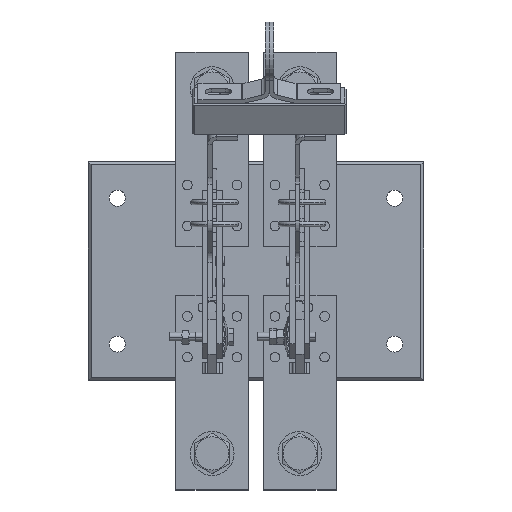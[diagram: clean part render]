
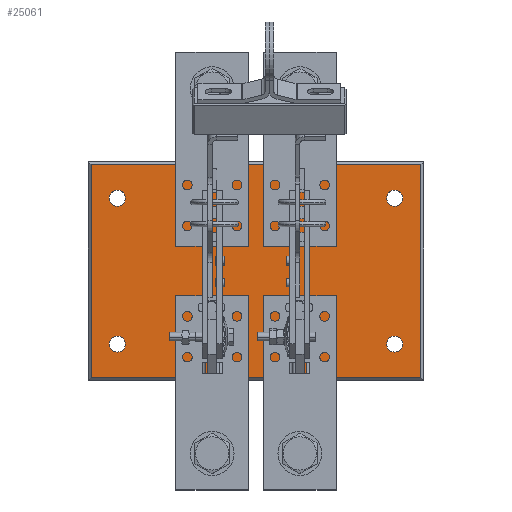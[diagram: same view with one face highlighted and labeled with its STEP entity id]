
A CAD part, top view. The second image highlights one B-rep face of the part: STEP entity #25061.
In plain terms, the highlighted planar face has unit normal (0, 0, 1).
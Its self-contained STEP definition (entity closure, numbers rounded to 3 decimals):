
#627 = DIRECTION ( 'NONE',  ( -1., 0., 0. ) ) ;
#874 = AXIS2_PLACEMENT_3D ( 'NONE', #3002, #16676, #20924 ) ;
#1264 = LINE ( 'NONE', #12679, #5043 ) ;
#1349 = EDGE_LOOP ( 'NONE', ( #22873, #18011 ) ) ;
#1757 = DIRECTION ( 'NONE',  ( -1., 0., 0. ) ) ;
#1785 = AXIS2_PLACEMENT_3D ( 'NONE', #17540, #17445, #9665 ) ;
#1841 = DIRECTION ( 'NONE',  ( 0., 1., 0. ) ) ;
#1969 = CARTESIAN_POINT ( 'NONE',  ( 115., -73., 7.5 ) ) ;
#2152 = CIRCLE ( 'NONE', #5512, 5.5 ) ;
#2404 = VERTEX_POINT ( 'NONE', #8203 ) ;
#3002 = CARTESIAN_POINT ( 'NONE',  ( -95., 50., 7.5 ) ) ;
#3201 = EDGE_CURVE ( 'NONE', #22048, #10824, #6075, .T. ) ;
#3203 = CARTESIAN_POINT ( 'NONE',  ( -113., 73., 7.5 ) ) ;
#3279 = CARTESIAN_POINT ( 'NONE',  ( -95., -50., 7.5 ) ) ;
#3706 = DIRECTION ( 'NONE',  ( 0., 0., -1. ) ) ;
#3781 = CARTESIAN_POINT ( 'NONE',  ( 95., -50., 7.5 ) ) ;
#5043 = VECTOR ( 'NONE', #9090, 1000. ) ;
#5133 = CIRCLE ( 'NONE', #10321, 5.5 ) ;
#5475 = VERTEX_POINT ( 'NONE', #14078 ) ;
#5512 = AXIS2_PLACEMENT_3D ( 'NONE', #3781, #3706, #1757 ) ;
#5856 = VECTOR ( 'NONE', #15847, 1000. ) ;
#6075 = CIRCLE ( 'NONE', #23785, 5.5 ) ;
#6126 = EDGE_CURVE ( 'NONE', #21661, #2404, #10371, .T. ) ;
#6304 = CIRCLE ( 'NONE', #9822, 5.5 ) ;
#6662 = VERTEX_POINT ( 'NONE', #9426 ) ;
#6857 = EDGE_CURVE ( 'NONE', #15502, #19643, #22092, .T. ) ;
#6975 = ORIENTED_EDGE ( 'NONE', *, *, #19981, .T. ) ;
#7610 = CARTESIAN_POINT ( 'NONE',  ( 95., 50., 7.5 ) ) ;
#7657 = ORIENTED_EDGE ( 'NONE', *, *, #10624, .T. ) ;
#8203 = CARTESIAN_POINT ( 'NONE',  ( 100.5, 50., 7.5 ) ) ;
#8344 = EDGE_CURVE ( 'NONE', #5475, #11295, #1264, .T. ) ;
#8403 = DIRECTION ( 'NONE',  ( -1., 0., 0. ) ) ;
#8642 = CARTESIAN_POINT ( 'NONE',  ( 95., 50., 7.5 ) ) ;
#9090 = DIRECTION ( 'NONE',  ( -1., 0., 0. ) ) ;
#9426 = CARTESIAN_POINT ( 'NONE',  ( -89.5, 50., 7.5 ) ) ;
#9590 = DIRECTION ( 'NONE',  ( -1., 0., 0. ) ) ;
#9665 = DIRECTION ( 'NONE',  ( 1., 0., 0. ) ) ;
#9822 = AXIS2_PLACEMENT_3D ( 'NONE', #8642, #16526, #627 ) ;
#9844 = CARTESIAN_POINT ( 'NONE',  ( 113., -73., 7.5 ) ) ;
#10173 = FACE_BOUND ( 'NONE', #1349, .T. ) ;
#10321 = AXIS2_PLACEMENT_3D ( 'NONE', #3279, #23108, #13372 ) ;
#10371 = CIRCLE ( 'NONE', #25009, 5.5 ) ;
#10624 = EDGE_CURVE ( 'NONE', #11295, #15502, #18516, .T. ) ;
#10824 = VERTEX_POINT ( 'NONE', #16071 ) ;
#11295 = VERTEX_POINT ( 'NONE', #3203 ) ;
#11652 = CARTESIAN_POINT ( 'NONE',  ( 89.5, -50., 7.5 ) ) ;
#11682 = DIRECTION ( 'NONE',  ( -1., 0., 0. ) ) ;
#11785 = CARTESIAN_POINT ( 'NONE',  ( -95., -50., 7.5 ) ) ;
#12034 = EDGE_CURVE ( 'NONE', #25164, #14307, #12150, .T. ) ;
#12067 = CARTESIAN_POINT ( 'NONE',  ( 95., -50., 7.5 ) ) ;
#12150 = CIRCLE ( 'NONE', #24429, 5.5 ) ;
#12372 = CARTESIAN_POINT ( 'NONE',  ( -95., 50., 7.5 ) ) ;
#12679 = CARTESIAN_POINT ( 'NONE',  ( -115., 73., 7.5 ) ) ;
#12753 = EDGE_CURVE ( 'NONE', #10824, #22048, #5133, .T. ) ;
#13372 = DIRECTION ( 'NONE',  ( -1., 0., 0. ) ) ;
#14078 = CARTESIAN_POINT ( 'NONE',  ( 113., 73., 7.5 ) ) ;
#14129 = DIRECTION ( 'NONE',  ( 0., 0., -1. ) ) ;
#14273 = FACE_BOUND ( 'NONE', #19795, .T. ) ;
#14307 = VERTEX_POINT ( 'NONE', #23079 ) ;
#14500 = DIRECTION ( 'NONE',  ( -1., 0., 0. ) ) ;
#14919 = FACE_BOUND ( 'NONE', #23686, .T. ) ;
#15168 = ORIENTED_EDGE ( 'NONE', *, *, #19806, .T. ) ;
#15196 = ORIENTED_EDGE ( 'NONE', *, *, #19218, .T. ) ;
#15487 = PLANE ( 'NONE',  #1785 ) ;
#15502 = VERTEX_POINT ( 'NONE', #21809 ) ;
#15847 = DIRECTION ( 'NONE',  ( 1., 0., 0. ) ) ;
#16071 = CARTESIAN_POINT ( 'NONE',  ( -89.5, -50., 7.5 ) ) ;
#16231 = EDGE_LOOP ( 'NONE', ( #21829, #15168 ) ) ;
#16349 = VECTOR ( 'NONE', #25200, 1000. ) ;
#16526 = DIRECTION ( 'NONE',  ( 0., 0., -1. ) ) ;
#16676 = DIRECTION ( 'NONE',  ( 0., 0., -1. ) ) ;
#16949 = EDGE_LOOP ( 'NONE', ( #24584, #20065, #7657, #21532 ) ) ;
#17386 = VERTEX_POINT ( 'NONE', #24274 ) ;
#17445 = DIRECTION ( 'NONE',  ( 0., 0., 1. ) ) ;
#17540 = CARTESIAN_POINT ( 'NONE',  ( 0., 0., 7.5 ) ) ;
#17876 = CIRCLE ( 'NONE', #874, 5.5 ) ;
#18011 = ORIENTED_EDGE ( 'NONE', *, *, #12753, .T. ) ;
#18516 = LINE ( 'NONE', #19293, #16349 ) ;
#19218 = EDGE_CURVE ( 'NONE', #2404, #21661, #6304, .T. ) ;
#19293 = CARTESIAN_POINT ( 'NONE',  ( -113., -75., 7.5 ) ) ;
#19643 = VERTEX_POINT ( 'NONE', #9844 ) ;
#19795 = EDGE_LOOP ( 'NONE', ( #22623, #15196 ) ) ;
#19806 = EDGE_CURVE ( 'NONE', #6662, #17386, #23419, .T. ) ;
#19981 = EDGE_CURVE ( 'NONE', #14307, #25164, #2152, .T. ) ;
#20065 = ORIENTED_EDGE ( 'NONE', *, *, #8344, .T. ) ;
#20160 = EDGE_CURVE ( 'NONE', #19643, #5475, #25597, .T. ) ;
#20385 = AXIS2_PLACEMENT_3D ( 'NONE', #12372, #24407, #14500 ) ;
#20589 = VECTOR ( 'NONE', #1841, 1000. ) ;
#20924 = DIRECTION ( 'NONE',  ( -1., 0., 0. ) ) ;
#21532 = ORIENTED_EDGE ( 'NONE', *, *, #6857, .T. ) ;
#21547 = DIRECTION ( 'NONE',  ( 0., 0., -1. ) ) ;
#21661 = VERTEX_POINT ( 'NONE', #22866 ) ;
#21809 = CARTESIAN_POINT ( 'NONE',  ( -113., -73., 7.5 ) ) ;
#21829 = ORIENTED_EDGE ( 'NONE', *, *, #23485, .T. ) ;
#22048 = VERTEX_POINT ( 'NONE', #22499 ) ;
#22092 = LINE ( 'NONE', #1969, #5856 ) ;
#22122 = ORIENTED_EDGE ( 'NONE', *, *, #12034, .T. ) ;
#22499 = CARTESIAN_POINT ( 'NONE',  ( -100.5, -50., 7.5 ) ) ;
#22623 = ORIENTED_EDGE ( 'NONE', *, *, #6126, .T. ) ;
#22866 = CARTESIAN_POINT ( 'NONE',  ( 89.5, 50., 7.5 ) ) ;
#22873 = ORIENTED_EDGE ( 'NONE', *, *, #3201, .T. ) ;
#22970 = FACE_OUTER_BOUND ( 'NONE', #16949, .T. ) ;
#23079 = CARTESIAN_POINT ( 'NONE',  ( 100.5, -50., 7.5 ) ) ;
#23108 = DIRECTION ( 'NONE',  ( 0., 0., -1. ) ) ;
#23419 = CIRCLE ( 'NONE', #20385, 5.5 ) ;
#23485 = EDGE_CURVE ( 'NONE', #17386, #6662, #17876, .T. ) ;
#23679 = DIRECTION ( 'NONE',  ( 0., 0., -1. ) ) ;
#23686 = EDGE_LOOP ( 'NONE', ( #22122, #6975 ) ) ;
#23785 = AXIS2_PLACEMENT_3D ( 'NONE', #11785, #23679, #11682 ) ;
#24042 = CARTESIAN_POINT ( 'NONE',  ( 113., 75., 7.5 ) ) ;
#24274 = CARTESIAN_POINT ( 'NONE',  ( -100.5, 50., 7.5 ) ) ;
#24407 = DIRECTION ( 'NONE',  ( 0., 0., -1. ) ) ;
#24429 = AXIS2_PLACEMENT_3D ( 'NONE', #12067, #14129, #8403 ) ;
#24584 = ORIENTED_EDGE ( 'NONE', *, *, #20160, .T. ) ;
#24839 = FACE_BOUND ( 'NONE', #16231, .T. ) ;
#25009 = AXIS2_PLACEMENT_3D ( 'NONE', #7610, #21547, #9590 ) ;
#25061 = ADVANCED_FACE ( 'NONE', ( #24839, #10173, #14919, #14273, #22970 ), #15487, .T. ) ;
#25164 = VERTEX_POINT ( 'NONE', #11652 ) ;
#25200 = DIRECTION ( 'NONE',  ( 0., -1., 0. ) ) ;
#25597 = LINE ( 'NONE', #24042, #20589 ) ;
